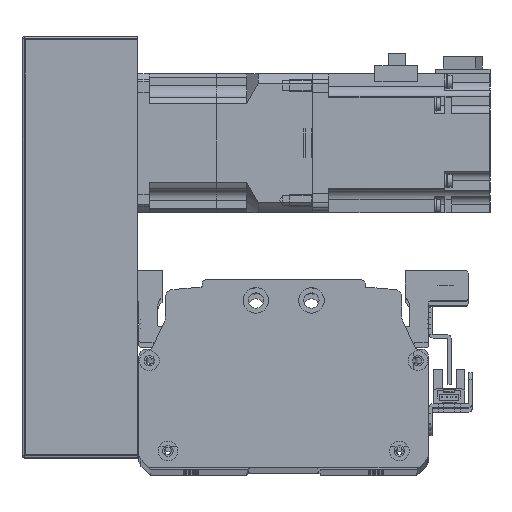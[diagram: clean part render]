
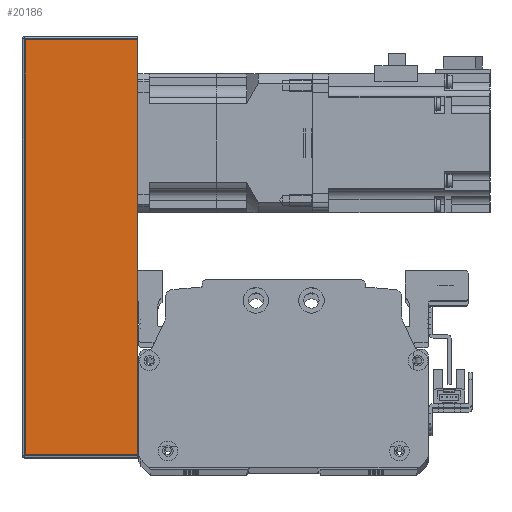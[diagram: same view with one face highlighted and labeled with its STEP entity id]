
A CAD part, top view. The second image highlights one B-rep face of the part: STEP entity #20186.
In plain terms, the highlighted planar face has unit normal (0, 0, 1) as drawn and (0, -1, 0) by its records, which use the part's own axes.
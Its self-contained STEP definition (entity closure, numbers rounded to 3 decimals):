
#604=PLANE('',#22206);
#1823=LINE('',#33360,#3447);
#1832=LINE('',#33399,#3456);
#1835=LINE('',#33409,#3459);
#1836=LINE('',#33411,#3460);
#3447=VECTOR('',#26994,10.);
#3456=VECTOR('',#27043,10.);
#3459=VECTOR('',#27060,10.);
#3460=VECTOR('',#27063,10.);
#5896=FACE_OUTER_BOUND('',#7404,.T.);
#7404=EDGE_LOOP('',(#17377,#17378,#17379,#17380));
#10339=VERTEX_POINT('',#33357);
#10340=VERTEX_POINT('',#33359);
#10349=VERTEX_POINT('',#33396);
#10350=VERTEX_POINT('',#33398);
#12815=EDGE_CURVE('',#10339,#10340,#1823,.T.);
#12835=EDGE_CURVE('',#10349,#10350,#1832,.T.);
#12841=EDGE_CURVE('',#10350,#10339,#1835,.T.);
#12842=EDGE_CURVE('',#10340,#10349,#1836,.T.);
#17377=ORIENTED_EDGE('',*,*,#12835,.F.);
#17378=ORIENTED_EDGE('',*,*,#12842,.F.);
#17379=ORIENTED_EDGE('',*,*,#12815,.F.);
#17380=ORIENTED_EDGE('',*,*,#12841,.F.);
#20186=ADVANCED_FACE('',(#5896),#604,.T.);
#22206=AXIS2_PLACEMENT_3D('',#33410,#27061,#27062);
#26994=DIRECTION('',(1.,0.,0.));
#27043=DIRECTION('',(-1.,0.,0.));
#27060=DIRECTION('',(0.,0.,1.));
#27061=DIRECTION('center_axis',(0.,-1.,0.));
#27062=DIRECTION('ref_axis',(1.,0.,0.));
#27063=DIRECTION('',(0.,0.,-1.));
#33357=CARTESIAN_POINT('',(-90.,-38.,25.));
#33359=CARTESIAN_POINT('',(90.,-38.,25.));
#33360=CARTESIAN_POINT('',(91.,-38.,25.));
#33396=CARTESIAN_POINT('',(90.,-38.,-24.));
#33398=CARTESIAN_POINT('',(-90.,-38.,-24.));
#33399=CARTESIAN_POINT('',(-45.5,-38.,-24.));
#33409=CARTESIAN_POINT('',(-90.,-38.,0.));
#33410=CARTESIAN_POINT('Origin',(-91.,-38.,0.));
#33411=CARTESIAN_POINT('',(90.,-38.,0.));
